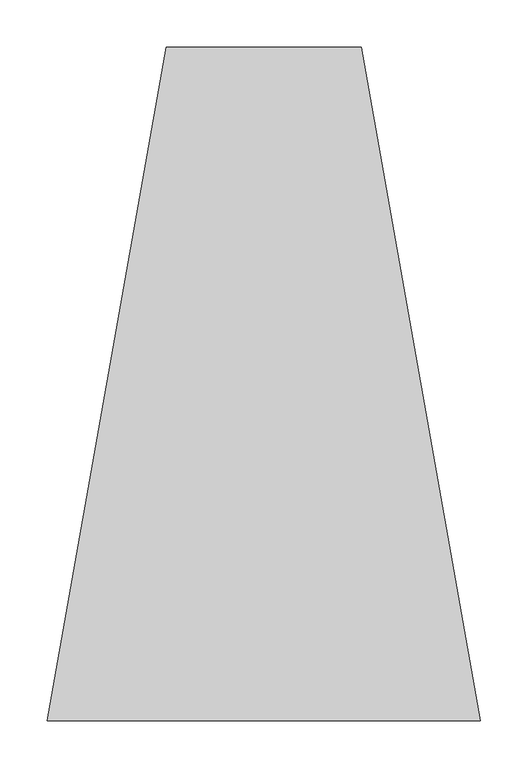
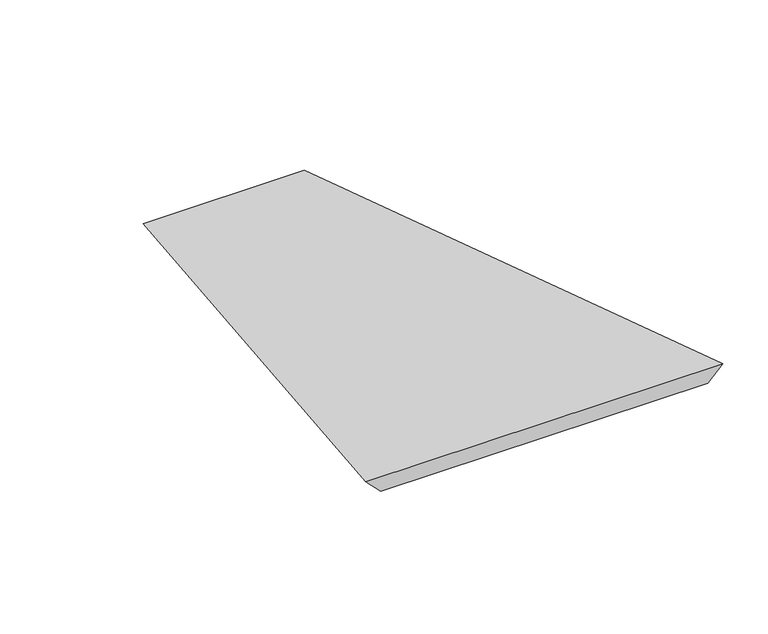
"""IFC4 building model written with IfcOpenShell, lengths in millimetres: proxy geometry, GRADIENT^TABLE 7_PYRAMID BASES-END BASE LEFT SIDE."""

from ifc_helpers import new_model, si_unit, origin, place, context, project, spatial, faceted_brep, source, transform, mapped, element, save


def generic_models_c5b3a9b2(model_context):
    return source(origin(), model_context, "Body", "Brep", [
        faceted_brep([(788.9962513, 0.0, -582.6037487), (914.4, -711.2, -457.2), (895.056123, -711.2, -476.543877), (769.6523744, 0.0, -601.9476256), (582.6037487, 0.0, -582.6037487), (457.2, -711.2, -457.2), (601.9476256, 0.0, -601.9476256), (476.543877, -711.2, -476.543877)], [[[0, 1, 2, 3]], [[4, 5, 1, 0]], [[0, 3, 6, 4]], [[7, 6, 3, 2]], [[2, 1, 5, 7]], [[5, 4, 6, 7]]]),
    ])


if __name__ == "__main__":
    model = new_model("IFC4")
    model_context = context("Model", 3, world=origin())
    ifc_project = project(units=[si_unit("LENGTHUNIT", "METRE", prefix="MILLI")], contexts=[model_context])
    site = spatial("IfcSite", under=ifc_project)
    building = spatial("IfcBuilding", under=site)
    placement = place(None, origin())
    generic_models_shape = generic_models_c5b3a9b2(model_context)
    element("IfcBuildingElementProxy", 1, Name="GRADIENT^TABLE 7_PYRAMID BASES-END BASE LEFT SIDE", ObjectType="GRADIENT^TABLE 7_PYRAMID BASES-END BASE LEFT SIDE", at=placement, inside=building, context=model_context, shape_type="MappedRepresentation", body=[
        mapped(generic_models_shape, transform((0.0, 0.0, 0.0), x_axis=(1.0, 0.0, 0.0), y_axis=(0.0, 1.0, 0.0), z_axis=(0.0, 0.0, 1.0))),
    ])
    save(model, "model.ifc")
